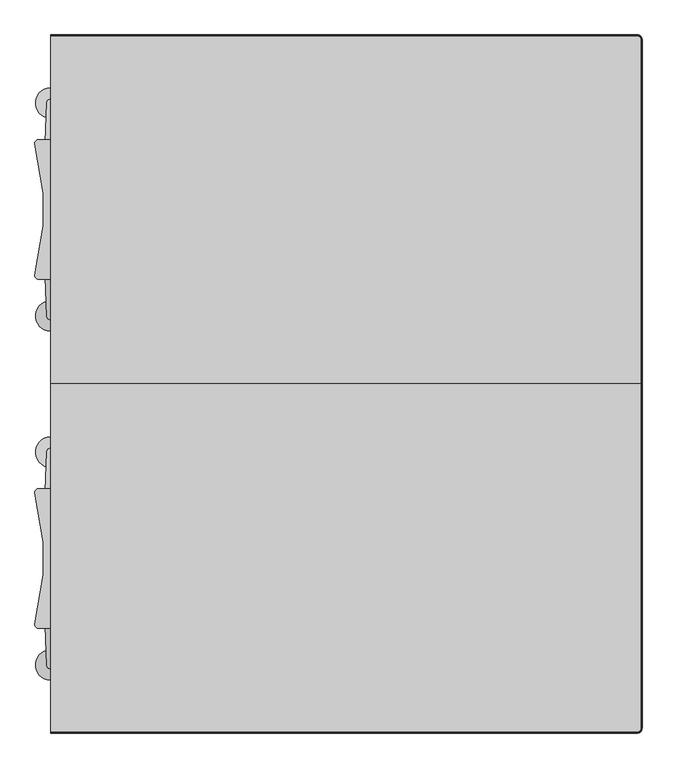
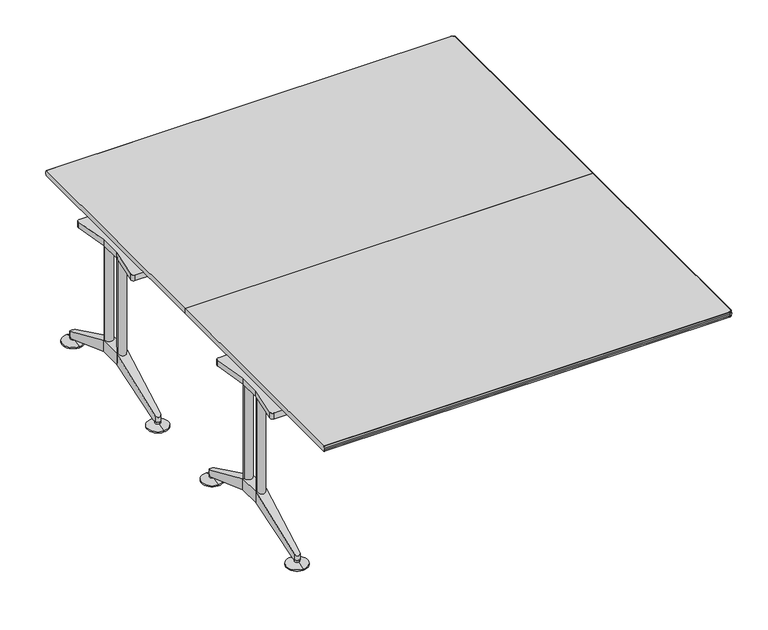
"""IFC4 building model written with IfcOpenShell, lengths in millimetres: furniture geometry, Furniture_Wilkhahn_620-46_Logon Table-Rectangle : Logon 620/46_3900L x 2300W x 730H."""

from ifc_helpers import new_model, si_unit, point, frame, frame_2d, origin, place, context, project, spatial, polyline, circle_curve, ellipse_curve, trimmed, segment, composite_curve, outline, extrude, source, transform, mapped, element, save
from ifc_brep_helpers import plane_surface, cylinder_surface, revolved_surface, advanced_brep


def furniture_7b60b26e(model_context):
    return source(origin(), model_context, "Body", "SolidModel", [
        advanced_brep(
        [(0.0, 250.4267924, 0.0), (0.0, 200.4267924, 0.0), (0.0, 300.4267924, 0.0), (0.0, 200.4267924, 6.0), (0.0, 300.4267924, 6.0), (0.0, 237.9511544, 17.0), (0.0, 262.9024304, 17.0), (0.0, 237.9511544, 27.0), (0.0, 262.9024304, 27.0), (0.0, 250.4267924, 27.0)],
        [
            (0, 1),
            (1, 2, circle_curve(frame((0.0, 250.4267924, 0.0), z_axis=(0.0, 0.0, -1.0), x_axis=(0.0, -1.0000000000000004, 0.0)), 50.0)),
            (2, 0),
            (2, 1, circle_curve(frame((0.0, 250.4267924, 0.0), z_axis=(0.0, 0.0, -1.0), x_axis=(0.0, -1.0000000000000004, 0.0)), 50.0)),
            (1, 3),
            (3, 4, circle_curve(frame((0.0, 250.4267924, 6.0), z_axis=(0.0, 0.0, -1.0), x_axis=(0.0, -1.0000000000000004, 0.0)), 50.0)),
            (4, 2),
            (4, 3, circle_curve(frame((0.0, 250.4267924, 6.0), z_axis=(0.0, 0.0, -1.0), x_axis=(0.0, -1.0000000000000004, 0.0)), 50.0)),
            (3, 5),
            (5, 6, circle_curve(frame((0.0, 250.4267924, 17.0), z_axis=(0.0, 0.0, -1.0), x_axis=(0.0, -1.0000000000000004, 0.0)), 12.475638)),
            (6, 4),
            (6, 5, circle_curve(frame((0.0, 250.4267924, 17.0), z_axis=(0.0, 0.0, -1.0), x_axis=(0.0, -1.0000000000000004, 0.0)), 12.475638)),
            (5, 7),
            (7, 8, circle_curve(frame((0.0, 250.4267924, 27.0), z_axis=(0.0, 0.0, -1.0), x_axis=(0.0, -1.0000000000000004, 0.0)), 12.475638)),
            (8, 6),
            (8, 7, circle_curve(frame((0.0, 250.4267924, 27.0), z_axis=(0.0, 0.0, -1.0), x_axis=(0.0, -1.0000000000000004, 0.0)), 12.475638)),
            (7, 9),
            (9, 8),
        ],
        [
            plane_surface(frame((0.0, 250.4267924, 0.0), z_axis=(0.0, 0.0, -1.0), x_axis=(0.0, -1.0, 0.0))),
            cylinder_surface(frame((0.0, 250.4267924, 27.0), z_axis=(0.0, 0.0, -1.0), x_axis=(0.0, -1.0000000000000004, 0.0)), 50.0),
            revolved_surface(polyline([(0.0, 237.9511544, 17.0), (0.0, 200.4267924, 6.0)]), (0.0, 250.4267924, 27.0), (0.0, 0.0, -1.0)),
            cylinder_surface(frame((0.0, 250.4267924, 27.0), z_axis=(0.0, 0.0, -1.0), x_axis=(0.0, -1.0000000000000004, 0.0)), 12.475638),
            plane_surface(frame((0.0, 250.4267924, 27.0), z_axis=(0.0, 0.0, 1.0), x_axis=(0.0, -1.0, 0.0))),
        ],
        [
            (0, [[1, 2, 3]]),
            (0, [[-3, 4, -1]]),
            (1, [[-2, 5, 6, 7]]),
            (1, [[-4, -7, 8, -5]]),
            (2, [[-6, 9, 10, 11]]),
            (2, [[-8, -11, 12, -9]]),
            (3, [[-10, 13, 14, 15]]),
            (3, [[-12, -15, 16, -13]]),
            (4, [[-14, 17, 18]]),
            (4, [[-16, -18, -17]]),
        ],
    ),
        advanced_brep(
        [(0.0, 901.4755164, 0.0), (0.0, 1001.4755164, 0.0), (0.0, 951.4755164, 0.0), (0.0, 901.4755164, 6.0), (0.0, 1001.4755164, 6.0), (0.0, 938.9998784, 17.0), (0.0, 963.9511544, 17.0), (0.0, 938.9998784, 27.0), (0.0, 963.9511544, 27.0), (0.0, 951.4755164, 27.0)],
        [
            (0, 1, circle_curve(frame((0.0, 951.4755164, 0.0), z_axis=(0.0, 0.0, -1.0), x_axis=(0.0, 1.0000000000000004, 0.0)), 50.0)),
            (1, 2),
            (2, 0),
            (1, 0, circle_curve(frame((0.0, 951.4755164, 0.0), z_axis=(0.0, 0.0, -1.0), x_axis=(0.0, 1.0000000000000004, 0.0)), 50.0)),
            (3, 4, circle_curve(frame((0.0, 951.4755164, 6.0), z_axis=(0.0, 0.0, -1.0), x_axis=(0.0, 1.0000000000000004, 0.0)), 50.0)),
            (4, 1),
            (0, 3),
            (4, 3, circle_curve(frame((0.0, 951.4755164, 6.0), z_axis=(0.0, 0.0, -1.0), x_axis=(0.0, 1.0000000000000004, 0.0)), 50.0)),
            (5, 6, circle_curve(frame((0.0, 951.4755164, 17.0), z_axis=(0.0, 0.0, -1.0), x_axis=(0.0, 1.0000000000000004, 0.0)), 12.475638)),
            (6, 4),
            (3, 5),
            (6, 5, circle_curve(frame((0.0, 951.4755164, 17.0), z_axis=(0.0, 0.0, -1.0), x_axis=(0.0, 1.0000000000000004, 0.0)), 12.475638)),
            (7, 8, circle_curve(frame((0.0, 951.4755164, 27.0), z_axis=(0.0, 0.0, -1.0), x_axis=(0.0, 1.0000000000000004, 0.0)), 12.475638)),
            (8, 6),
            (5, 7),
            (8, 7, circle_curve(frame((0.0, 951.4755164, 27.0), z_axis=(0.0, 0.0, -1.0), x_axis=(0.0, 1.0000000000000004, 0.0)), 12.475638)),
            (9, 8),
            (7, 9),
        ],
        [
            plane_surface(frame((0.0, 951.4755164, 0.0), z_axis=(0.0, 0.0, -1.0), x_axis=(0.0, 1.0, 0.0))),
            cylinder_surface(frame((0.0, 951.4755164, 27.0), z_axis=(0.0, 0.0, 1.0), x_axis=(0.0, 1.0000000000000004, 0.0)), 50.0),
            revolved_surface(polyline([(0.0, 1001.4755164, 6.0), (0.0, 963.9511544, 17.0)]), (0.0, 951.4755164, 27.0), (0.0, 0.0, 1.0)),
            cylinder_surface(frame((0.0, 951.4755164, 27.0), z_axis=(0.0, 0.0, 1.0), x_axis=(0.0, 1.0000000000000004, 0.0)), 12.475638),
            plane_surface(frame((0.0, 951.4755164, 27.0), z_axis=(0.0, 0.0, 1.0), x_axis=(0.0, 1.0, 0.0))),
        ],
        [
            (0, [[1, 2, 3]]),
            (0, [[4, -3, -2]]),
            (1, [[5, 6, -1, 7]]),
            (1, [[8, -7, -4, -6]]),
            (2, [[9, 10, -5, 11]]),
            (2, [[12, -11, -8, -10]]),
            (3, [[13, 14, -9, 15]]),
            (3, [[16, -15, -12, -14]]),
            (4, [[17, -13, 18]]),
            (4, [[-18, -16, -17]]),
        ],
    ),
        extrude(outline(composite_curve([segment(polyline([(25.0, 547.9511544), (51.7160071, 384.8913867)]), True, "CONTINUOUS"), segment(trimmed(circle_curve(frame_2d((39.8739001, 382.9511544)), 12.0), [point((51.7160071, 384.8913867))], [point((39.8739001, 370.9511544))], False, "CARTESIAN"), True, "CONTINUOUS"), segment(polyline([(39.8739001, 370.9511544), (-39.8739001, 370.9511544)]), True, "CONTINUOUS"), segment(trimmed(circle_curve(frame_2d((-39.8739001, 382.9511544)), 12.0), [point((-39.8739001, 370.9511544))], [point((-51.7160071, 384.8913867))], False, "CARTESIAN"), True, "CONTINUOUS"), segment(polyline([(-51.7160071, 384.8913867), (-25.0, 547.9511544), (-25.0, 653.9511544), (-51.7160071, 817.0109222)]), True, "CONTINUOUS"), segment(trimmed(circle_curve(frame_2d((-39.8739001, 818.9511544)), 12.0), [point((-51.7160071, 817.0109222))], [point((-39.8739001, 830.9511544))], False, "CARTESIAN"), True, "CONTINUOUS"), segment(polyline([(-39.8739001, 830.9511544), (39.8739001, 830.9511544)]), True, "CONTINUOUS"), segment(trimmed(circle_curve(frame_2d((39.8739001, 818.9511544)), 12.0), [point((39.8739001, 830.9511544))], [point((51.7160071, 817.0109222))], False, "CARTESIAN"), True, "CONTINUOUS"), segment(polyline([(51.7160071, 817.0109222), (25.0, 653.9511544), (25.0, 547.9511544)]), True, "CONTINUOUS")], self_intersect=False)), frame((0.0, 0.0, 675.0), z_axis=(0.0, 0.0, 1.0), x_axis=(1.0, 0.0, 0.0)), (0.0, 0.0, 1.0), 29.0),
        advanced_brep(
        [(-25.0, 653.9511544, 140.0), (-25.0, 547.9511544, 140.0), (-25.0, 547.9511544, 195.0), (-25.0, 653.9511544, 195.0), (25.0, 653.9511544, 195.0), (25.0, 547.9511544, 195.0), (25.0, 547.9511544, 140.0), (25.0, 653.9511544, 140.0), (13.4930419, 938.9998784, 27.0), (-13.4930419, 938.9998784, 27.0), (-12.9894205, 951.4755164, 27.0), (0.0, 963.9511544, 27.0), (12.9894205, 951.4755164, 27.0), (12.9894205, 951.4755164, 56.4159205), (0.0, 963.9511544, 50.6048844), (-12.9894205, 951.4755164, 56.4159205), (12.9894205, 250.4267924, 56.4159205), (12.9894205, 250.4267924, 27.0), (13.4930419, 262.9024304, 27.0), (-12.9894205, 250.4267924, 27.0), (-12.9894205, 250.4267924, 56.4159205), (-13.4930419, 262.9024304, 27.0), (0.0, 237.9511544, 27.0), (0.0, 237.9511544, 50.6048844)],
        [
            (0, 1),
            (1, 2),
            (2, 3),
            (3, 0),
            (4, 5),
            (5, 6),
            (6, 7),
            (7, 4),
            (8, 9),
            (9, 10),
            (10, 11, circle_curve(frame((0.0, 950.9511544, 27.0), z_axis=(0.0, 0.0, -1.0), x_axis=(1.0000000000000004, 0.0, 0.0)), 13.0)),
            (11, 12, circle_curve(frame((0.0, 950.9511544, 27.0), z_axis=(0.0, 0.0, -1.0), x_axis=(1.0000000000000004, 0.0, 0.0)), 13.0)),
            (12, 8),
            (3, 4),
            (4, 13),
            (13, 14, ellipse_curve(frame((0.0, 950.9511544, 56.6601634), z_axis=(0.0, 0.42223330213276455, 0.9064871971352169), x_axis=(0.0, 0.9064871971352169, -0.42223330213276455)), 14.341074, 13.0)),
            (14, 15, ellipse_curve(frame((0.0, 950.9511544, 56.6601634), z_axis=(0.0, 0.42223330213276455, 0.9064871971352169), x_axis=(0.0, 0.9064871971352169, -0.42223330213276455)), 14.341074, 13.0)),
            (15, 3),
            (7, 0),
            (0, 9),
            (8, 7),
            (16, 17),
            (17, 18),
            (18, 6),
            (5, 16),
            (19, 20),
            (20, 2),
            (1, 21),
            (21, 19),
            (2, 5),
            (6, 1),
            (19, 22, circle_curve(frame((0.0, 250.9511544, 27.0), z_axis=(0.0, 0.0, 1.0), x_axis=(1.0000000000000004, 0.0, 0.0)), 13.0)),
            (22, 17, circle_curve(frame((0.0, 250.9511544, 27.0), z_axis=(0.0, 0.0, 1.0), x_axis=(1.0000000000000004, 0.0, 0.0)), 13.0)),
            (16, 23, ellipse_curve(frame((0.0, 250.9511544, 56.6601634), z_axis=(0.0, 0.42223330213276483, -0.906487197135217), x_axis=(0.0, -0.906487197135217, -0.42223330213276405)), 14.341074, 13.0)),
            (23, 20, ellipse_curve(frame((0.0, 250.9511544, 56.6601634), z_axis=(0.0, 0.42223330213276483, -0.906487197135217), x_axis=(0.0, -0.906487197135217, -0.42223330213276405)), 14.341074, 13.0)),
            (15, 10),
            (13, 12),
            (21, 18),
        ],
        [
            plane_surface(frame((-25.0, 947.2046146, 27.0), z_axis=(-1.0, 0.0, 0.0), x_axis=(0.0, -1.0, 0.0))),
            plane_surface(frame((25.0, 947.2046146, 27.0), z_axis=(1.0, 0.0, 0.0), x_axis=(0.0, 1.0, 0.0))),
            plane_surface(frame((25.0, 938.9998784, 27.0), z_axis=(0.0, 0.0, -1.0), x_axis=(-1.0, 0.0, 0.0))),
            plane_surface(frame((25.0, 963.9511544, 50.6048844), z_axis=(0.0, 0.42223330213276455, 0.9064871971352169), x_axis=(-1.0, 0.0, 0.0))),
            plane_surface(frame((25.0, 653.9511544, 140.0), z_axis=(0.0, -0.36852267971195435, -0.9296187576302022), x_axis=(-1.0, 0.0, 0.0))),
            plane_surface(frame((25.0, 547.9511544, 195.0), z_axis=(0.9991861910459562, -0.04033553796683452, 0.0), x_axis=(0.0, 0.0, -1.0))),
            plane_surface(frame((-12.9894205, 250.4267924, 195.0), z_axis=(-0.9991861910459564, -0.0403355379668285, 0.0), x_axis=(0.0, 0.0, -1.0))),
            plane_surface(frame((25.0, 653.9511544, 195.0), z_axis=(0.0, 0.0, 1.0), x_axis=(-1.0, 0.0, 0.0))),
            plane_surface(frame((25.0, 547.9511544, 140.0), z_axis=(0.0, 0.0, -1.0), x_axis=(-1.0, 0.0, 0.0))),
            cylinder_surface(frame((0.0, 250.9511544, 0.0), z_axis=(0.0, 0.0, -1.0), x_axis=(1.0000000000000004, 0.0, 0.0)), 13.0),
            plane_surface(frame((-25.0, 653.9511544, 195.0), z_axis=(-0.9991861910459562, 0.040335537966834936, 0.0), x_axis=(0.0, 0.0, -1.0))),
            cylinder_surface(frame((0.0, 950.9511544, -14.190167), z_axis=(0.0, 0.0, -1.0), x_axis=(1.0000000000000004, 0.0, 0.0)), 13.0),
            plane_surface(frame((12.9894205, 951.4755164, 195.0), z_axis=(0.9991861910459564, 0.04033553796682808, 0.0), x_axis=(0.0, 0.0, -1.0))),
            plane_surface(frame((25.0, 547.9511544, 195.0), z_axis=(0.0, -0.4222333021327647, 0.9064871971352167), x_axis=(-1.0, 0.0, 0.0))),
            plane_surface(frame((25.0, 237.9511544, 27.0), z_axis=(0.0, 0.0, -1.0), x_axis=(-1.0, 0.0, 0.0))),
            plane_surface(frame((25.0, 262.9024304, 27.0), z_axis=(0.0, 0.36852267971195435, -0.929618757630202), x_axis=(-1.0, 0.0, 0.0))),
        ],
        [
            (0, [[1, 2, 3, 4]]),
            (1, [[5, 6, 7, 8]]),
            (2, [[9, 10, 11, 12, 13]]),
            (3, [[14, 15, 16, 17, 18]]),
            (4, [[19, 20, -9, 21]]),
            (5, [[22, 23, 24, -6, 25]]),
            (6, [[26, 27, -2, 28, 29]]),
            (7, [[-3, 30, -5, -14]]),
            (8, [[-1, -19, -7, 31]]),
            (9, [[-26, 32, 33, -22, 34, 35]]),
            (10, [[36, -10, -20, -4, -18]]),
            (11, [[-36, -17, -16, 37, -12, -11]]),
            (12, [[-37, -15, -8, -21, -13]]),
            (13, [[-30, -27, -35, -34, -25]]),
            (14, [[38, -23, -33, -32, -29]]),
            (15, [[-31, -24, -38, -28]]),
        ],
    ),
        extrude(outline(composite_curve([segment(trimmed(circle_curve(frame_2d((0.0, 547.9511544)), 20.0), [point((-20.0, 547.9511544))], [point((20.0, 547.9511544))], False, "CARTESIAN"), True, "CONTINUOUS"), segment(trimmed(circle_curve(frame_2d((0.0, 547.9511544)), 20.0), [point((20.0, 547.9511544))], [point((-20.0, 547.9511544))], False, "CARTESIAN"), True, "CONTINUOUS")], self_intersect=False)), frame((0.0, 0.0, 140.0), z_axis=(0.0, 0.0, 1.0), x_axis=(1.0, 0.0, 0.0)), (0.0, 0.0, 1.0), 535.0),
        extrude(outline(composite_curve([segment(trimmed(circle_curve(frame_2d((0.0, 653.9511544)), 20.0), [point((-20.0, 653.9511544))], [point((20.0, 653.9511544))], False, "CARTESIAN"), True, "CONTINUOUS"), segment(trimmed(circle_curve(frame_2d((0.0, 653.9511544)), 20.0), [point((20.0, 653.9511544))], [point((-20.0, 653.9511544))], False, "CARTESIAN"), True, "CONTINUOUS")], self_intersect=False)), frame((0.0, 0.0, 140.0), z_axis=(0.0, 0.0, 1.0), x_axis=(1.0, 0.0, 0.0)), (0.0, 0.0, 1.0), 535.0),
        advanced_brep(
        [(0.0, -198.5244836, 0.0), (0.0, -248.5244836, 0.0), (0.0, -148.5244836, 0.0), (0.0, -248.5244836, 6.0), (0.0, -148.5244836, 6.0), (0.0, -211.0001216, 17.0), (0.0, -186.0488456, 17.0), (0.0, -211.0001216, 27.0), (0.0, -186.0488456, 27.0), (0.0, -198.5244836, 27.0)],
        [
            (0, 1),
            (1, 2, circle_curve(frame((0.0, -198.5244836, 0.0), z_axis=(0.0, 0.0, -1.0), x_axis=(0.0, 1.0000000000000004, 0.0)), 50.0)),
            (2, 0),
            (2, 1, circle_curve(frame((0.0, -198.5244836, 0.0), z_axis=(0.0, 0.0, -1.0), x_axis=(0.0, 1.0000000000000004, 0.0)), 50.0)),
            (1, 3),
            (3, 4, circle_curve(frame((0.0, -198.5244836, 6.0), z_axis=(0.0, 0.0, -1.0), x_axis=(0.0, 1.0000000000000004, 0.0)), 50.0)),
            (4, 2),
            (4, 3, circle_curve(frame((0.0, -198.5244836, 6.0), z_axis=(0.0, 0.0, -1.0), x_axis=(0.0, 1.0000000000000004, 0.0)), 50.0)),
            (3, 5),
            (5, 6, circle_curve(frame((0.0, -198.5244836, 17.0), z_axis=(0.0, 0.0, -1.0), x_axis=(0.0, 1.0000000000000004, 0.0)), 12.475638)),
            (6, 4),
            (6, 5, circle_curve(frame((0.0, -198.5244836, 17.0), z_axis=(0.0, 0.0, -1.0), x_axis=(0.0, 1.0000000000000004, 0.0)), 12.475638)),
            (5, 7),
            (7, 8, circle_curve(frame((0.0, -198.5244836, 27.0), z_axis=(0.0, 0.0, -1.0), x_axis=(0.0, 1.0000000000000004, 0.0)), 12.475638)),
            (8, 6),
            (8, 7, circle_curve(frame((0.0, -198.5244836, 27.0), z_axis=(0.0, 0.0, -1.0), x_axis=(0.0, 1.0000000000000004, 0.0)), 12.475638)),
            (7, 9),
            (9, 8),
        ],
        [
            plane_surface(frame((0.0, -198.5244836, 0.0), z_axis=(0.0, 0.0, -1.0), x_axis=(0.0, 1.0, 0.0))),
            cylinder_surface(frame((0.0, -198.5244836, 27.0), z_axis=(0.0, 0.0, -1.0), x_axis=(0.0, 1.0000000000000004, 0.0)), 50.0),
            revolved_surface(polyline([(0.0, -186.0488456, 17.0), (0.0, -148.5244836, 6.0)]), (0.0, -198.5244836, 27.0), (0.0, 0.0, -1.0)),
            cylinder_surface(frame((0.0, -198.5244836, 27.0), z_axis=(0.0, 0.0, -1.0), x_axis=(0.0, 1.0000000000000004, 0.0)), 12.475638),
            plane_surface(frame((0.0, -198.5244836, 27.0), z_axis=(0.0, 0.0, 1.0), x_axis=(0.0, 1.0, 0.0))),
        ],
        [
            (0, [[1, 2, 3]]),
            (0, [[-3, 4, -1]]),
            (1, [[5, 6, 7, -2]]),
            (1, [[-7, 8, -5, -4]]),
            (2, [[9, 10, 11, -6]]),
            (2, [[-11, 12, -9, -8]]),
            (3, [[13, 14, 15, -10]]),
            (3, [[-15, 16, -13, -12]]),
            (4, [[17, 18, -14]]),
            (4, [[-18, -17, -16]]),
        ],
    ),
        advanced_brep(
        [(0.0, -849.5732076, 0.0), (0.0, -899.5732076, 0.0), (0.0, -949.5732076, 0.0), (0.0, -849.5732076, 6.0), (0.0, -949.5732076, 6.0), (0.0, -887.0975696, 17.0), (0.0, -912.0488456, 17.0), (0.0, -887.0975696, 27.0), (0.0, -912.0488456, 27.0), (0.0, -899.5732076, 27.0)],
        [
            (0, 1),
            (1, 2),
            (2, 0, circle_curve(frame((0.0, -899.5732076, 0.0), z_axis=(0.0, 0.0, -1.0), x_axis=(0.0, -1.0000000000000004, 0.0)), 50.0)),
            (0, 2, circle_curve(frame((0.0, -899.5732076, 0.0), z_axis=(0.0, 0.0, -1.0), x_axis=(0.0, -1.0000000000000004, 0.0)), 50.0)),
            (3, 0),
            (2, 4),
            (4, 3, circle_curve(frame((0.0, -899.5732076, 6.0), z_axis=(0.0, 0.0, -1.0), x_axis=(0.0, -1.0000000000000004, 0.0)), 50.0)),
            (3, 4, circle_curve(frame((0.0, -899.5732076, 6.0), z_axis=(0.0, 0.0, -1.0), x_axis=(0.0, -1.0000000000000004, 0.0)), 50.0)),
            (5, 3),
            (4, 6),
            (6, 5, circle_curve(frame((0.0, -899.5732076, 17.0), z_axis=(0.0, 0.0, -1.0), x_axis=(0.0, -1.0000000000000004, 0.0)), 12.475638)),
            (5, 6, circle_curve(frame((0.0, -899.5732076, 17.0), z_axis=(0.0, 0.0, -1.0), x_axis=(0.0, -1.0000000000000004, 0.0)), 12.475638)),
            (7, 5),
            (6, 8),
            (8, 7, circle_curve(frame((0.0, -899.5732076, 27.0), z_axis=(0.0, 0.0, -1.0), x_axis=(0.0, -1.0000000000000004, 0.0)), 12.475638)),
            (7, 8, circle_curve(frame((0.0, -899.5732076, 27.0), z_axis=(0.0, 0.0, -1.0), x_axis=(0.0, -1.0000000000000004, 0.0)), 12.475638)),
            (9, 7),
            (8, 9),
        ],
        [
            plane_surface(frame((0.0, -899.5732076, 0.0), z_axis=(0.0, 0.0, -1.0), x_axis=(0.0, -1.0, 0.0))),
            cylinder_surface(frame((0.0, -899.5732076, 27.0), z_axis=(0.0, 0.0, 1.0), x_axis=(0.0, -1.0000000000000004, 0.0)), 50.0),
            revolved_surface(polyline([(0.0, -949.5732076, 6.0), (0.0, -912.0488456, 17.0)]), (0.0, -899.5732076, 27.0), (0.0, 0.0, 1.0)),
            cylinder_surface(frame((0.0, -899.5732076, 27.0), z_axis=(0.0, 0.0, 1.0), x_axis=(0.0, -1.0000000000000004, 0.0)), 12.475638),
            plane_surface(frame((0.0, -899.5732076, 27.0), z_axis=(0.0, 0.0, 1.0), x_axis=(0.0, -1.0, 0.0))),
        ],
        [
            (0, [[1, 2, 3]]),
            (0, [[-2, -1, 4]]),
            (1, [[5, -3, 6, 7]]),
            (1, [[-6, -4, -5, 8]]),
            (2, [[9, -7, 10, 11]]),
            (2, [[-10, -8, -9, 12]]),
            (3, [[13, -11, 14, 15]]),
            (3, [[-14, -12, -13, 16]]),
            (4, [[17, -15, 18]]),
            (4, [[-18, -16, -17]]),
        ],
    ),
        extrude(outline(composite_curve([segment(polyline([(25.0, -496.0488456), (25.0, -602.0488456), (51.7160071, -765.1086133)]), True, "CONTINUOUS"), segment(trimmed(circle_curve(frame_2d((39.8739001, -767.0488456)), 12.0), [point((51.7160071, -765.1086133))], [point((39.8739001, -779.0488456))], False, "CARTESIAN"), True, "CONTINUOUS"), segment(polyline([(39.8739001, -779.0488456), (-39.8739001, -779.0488456)]), True, "CONTINUOUS"), segment(trimmed(circle_curve(frame_2d((-39.8739001, -767.0488456)), 12.0), [point((-39.8739001, -779.0488456))], [point((-51.7160071, -765.1086133))], False, "CARTESIAN"), True, "CONTINUOUS"), segment(polyline([(-51.7160071, -765.1086133), (-25.0, -602.0488456), (-25.0, -496.0488456), (-51.7160071, -332.9890778)]), True, "CONTINUOUS"), segment(trimmed(circle_curve(frame_2d((-39.8739001, -331.0488456)), 12.0), [point((-51.7160071, -332.9890778))], [point((-39.8739001, -319.0488456))], False, "CARTESIAN"), True, "CONTINUOUS"), segment(polyline([(-39.8739001, -319.0488456), (39.8739001, -319.0488456)]), True, "CONTINUOUS"), segment(trimmed(circle_curve(frame_2d((39.8739001, -331.0488456)), 12.0), [point((39.8739001, -319.0488456))], [point((51.7160071, -332.9890778))], False, "CARTESIAN"), True, "CONTINUOUS"), segment(polyline([(51.7160071, -332.9890778), (25.0, -496.0488456)]), True, "CONTINUOUS")], self_intersect=False)), frame((0.0, 0.0, 675.0), z_axis=(0.0, 0.0, 1.0), x_axis=(1.0, 0.0, 0.0)), (0.0, 0.0, 1.0), 29.0),
        advanced_brep(
        [(-25.0, -602.0488456, 140.0), (-25.0, -602.0488456, 195.0), (-25.0, -496.0488456, 195.0), (-25.0, -496.0488456, 140.0), (25.0, -602.0488456, 195.0), (25.0, -602.0488456, 140.0), (25.0, -496.0488456, 140.0), (25.0, -496.0488456, 195.0), (13.4930419, -887.0975696, 27.0), (12.9894205, -899.5732076, 27.0), (0.0, -912.0488456, 27.0), (-12.9894205, -899.5732076, 27.0), (-13.4930419, -887.0975696, 27.0), (-12.9894205, -899.5732076, 56.4159205), (0.0, -912.0488456, 50.6048844), (12.9894205, -899.5732076, 56.4159205), (12.9894205, -198.5244836, 56.4159205), (13.4930419, -211.0001216, 27.0), (12.9894205, -198.5244836, 27.0), (-12.9894205, -198.5244836, 27.0), (-13.4930419, -211.0001216, 27.0), (-12.9894205, -198.5244836, 56.4159205), (0.0, -186.0488456, 50.6048844), (0.0, -186.0488456, 27.0)],
        [
            (0, 1),
            (1, 2),
            (2, 3),
            (3, 0),
            (4, 5),
            (5, 6),
            (6, 7),
            (7, 4),
            (8, 9),
            (9, 10, circle_curve(frame((0.0, -899.0488456, 27.0), z_axis=(0.0, 0.0, -1.0), x_axis=(1.0000000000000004, 0.0, 0.0)), 13.0)),
            (10, 11, circle_curve(frame((0.0, -899.0488456, 27.0), z_axis=(0.0, 0.0, -1.0), x_axis=(1.0000000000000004, 0.0, 0.0)), 13.0)),
            (11, 12),
            (12, 8),
            (1, 13),
            (13, 14, ellipse_curve(frame((0.0, -899.0488456, 56.6601634), z_axis=(0.0, -0.42223330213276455, 0.9064871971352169), x_axis=(0.0, -0.9064871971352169, -0.42223330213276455)), 14.341074, 13.0)),
            (14, 15, ellipse_curve(frame((0.0, -899.0488456, 56.6601634), z_axis=(0.0, -0.42223330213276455, 0.9064871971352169), x_axis=(0.0, -0.9064871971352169, -0.42223330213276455)), 14.341074, 13.0)),
            (15, 4),
            (4, 1),
            (5, 8),
            (12, 0),
            (0, 5),
            (16, 7),
            (6, 17),
            (17, 18),
            (18, 16),
            (19, 20),
            (20, 3),
            (2, 21),
            (21, 19),
            (7, 2),
            (3, 6),
            (21, 22, ellipse_curve(frame((0.0, -199.0488456, 56.6601634), z_axis=(0.0, -0.42223330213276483, -0.906487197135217), x_axis=(0.0, 0.906487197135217, -0.42223330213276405)), 14.341074, 13.0)),
            (22, 16, ellipse_curve(frame((0.0, -199.0488456, 56.6601634), z_axis=(0.0, -0.42223330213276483, -0.906487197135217), x_axis=(0.0, 0.906487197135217, -0.42223330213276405)), 14.341074, 13.0)),
            (18, 23, circle_curve(frame((0.0, -199.0488456, 27.0), z_axis=(0.0, 0.0, 1.0), x_axis=(1.0000000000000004, 0.0, 0.0)), 13.0)),
            (23, 19, circle_curve(frame((0.0, -199.0488456, 27.0), z_axis=(0.0, 0.0, 1.0), x_axis=(1.0000000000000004, 0.0, 0.0)), 13.0)),
            (11, 13),
            (9, 15),
            (17, 20),
        ],
        [
            plane_surface(frame((-25.0, -895.3023057, 27.0), z_axis=(-1.0, 0.0, 0.0), x_axis=(0.0, 1.0, 0.0))),
            plane_surface(frame((25.0, -895.3023057, 27.0), z_axis=(1.0, 0.0, 0.0), x_axis=(0.0, -1.0, 0.0))),
            plane_surface(frame((25.0, -887.0975696, 27.0), z_axis=(0.0, 0.0, -1.0), x_axis=(-1.0, 0.0, 0.0))),
            plane_surface(frame((25.0, -912.0488456, 50.6048844), z_axis=(0.0, -0.42223330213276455, 0.9064871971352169), x_axis=(-1.0, 0.0, 0.0))),
            plane_surface(frame((25.0, -602.0488456, 140.0), z_axis=(0.0, 0.36852267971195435, -0.9296187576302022), x_axis=(-1.0, 0.0, 0.0))),
            plane_surface(frame((25.0, -496.0488456, 195.0), z_axis=(0.9991861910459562, 0.04033553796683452, 0.0), x_axis=(0.0, 0.0, -1.0))),
            plane_surface(frame((-12.9894205, -198.5244836, 195.0), z_axis=(-0.9991861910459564, 0.0403355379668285, 0.0), x_axis=(0.0, 0.0, -1.0))),
            plane_surface(frame((25.0, -602.0488456, 195.0), z_axis=(0.0, 0.0, 1.0), x_axis=(-1.0, 0.0, 0.0))),
            plane_surface(frame((25.0, -496.0488456, 140.0), z_axis=(0.0, 0.0, -1.0), x_axis=(-1.0, 0.0, 0.0))),
            cylinder_surface(frame((0.0, -199.0488456, 0.0), z_axis=(0.0, 0.0, -1.0), x_axis=(1.0000000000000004, 0.0, 0.0)), 13.0),
            plane_surface(frame((-25.0, -602.0488456, 195.0), z_axis=(-0.9991861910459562, -0.040335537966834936, 0.0), x_axis=(0.0, 0.0, -1.0))),
            cylinder_surface(frame((0.0, -899.0488456, -14.190167), z_axis=(0.0, 0.0, -1.0), x_axis=(1.0000000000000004, 0.0, 0.0)), 13.0),
            plane_surface(frame((12.9894205, -899.5732076, 195.0), z_axis=(0.9991861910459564, -0.04033553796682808, 0.0), x_axis=(0.0, 0.0, -1.0))),
            plane_surface(frame((25.0, -496.0488456, 195.0), z_axis=(0.0, 0.4222333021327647, 0.9064871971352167), x_axis=(-1.0, 0.0, 0.0))),
            plane_surface(frame((25.0, -186.0488456, 27.0), z_axis=(0.0, 0.0, -1.0), x_axis=(-1.0, 0.0, 0.0))),
            plane_surface(frame((25.0, -211.0001216, 27.0), z_axis=(0.0, -0.36852267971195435, -0.929618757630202), x_axis=(-1.0, 0.0, 0.0))),
        ],
        [
            (0, [[1, 2, 3, 4]]),
            (1, [[5, 6, 7, 8]]),
            (2, [[9, 10, 11, 12, 13]]),
            (3, [[14, 15, 16, 17, 18]]),
            (4, [[19, -13, 20, 21]]),
            (5, [[22, -7, 23, 24, 25]]),
            (6, [[26, 27, -3, 28, 29]]),
            (7, [[-18, -8, 30, -2]]),
            (8, [[31, -6, -21, -4]]),
            (9, [[32, 33, -25, 34, 35, -29]]),
            (10, [[-14, -1, -20, -12, 36]]),
            (11, [[-11, -10, 37, -16, -15, -36]]),
            (12, [[-9, -19, -5, -17, -37]]),
            (13, [[-22, -33, -32, -28, -30]]),
            (14, [[-26, -35, -34, -24, 38]]),
            (15, [[-27, -38, -23, -31]]),
        ],
    ),
        extrude(outline(composite_curve([segment(trimmed(circle_curve(frame_2d((0.0, -496.0488456)), 20.0), [point((-20.0, -496.0488456))], [point((20.0, -496.0488456))], False, "CARTESIAN"), True, "CONTINUOUS"), segment(trimmed(circle_curve(frame_2d((0.0, -496.0488456)), 20.0), [point((20.0, -496.0488456))], [point((-20.0, -496.0488456))], False, "CARTESIAN"), True, "CONTINUOUS")], self_intersect=False)), frame((0.0, 0.0, 140.0), z_axis=(0.0, 0.0, 1.0), x_axis=(1.0, 0.0, 0.0)), (0.0, 0.0, 1.0), 535.0),
        extrude(outline(composite_curve([segment(trimmed(circle_curve(frame_2d((0.0, -602.0488456)), 20.0), [point((-20.0, -602.0488456))], [point((20.0, -602.0488456))], False, "CARTESIAN"), True, "CONTINUOUS"), segment(trimmed(circle_curve(frame_2d((0.0, -602.0488456)), 20.0), [point((20.0, -602.0488456))], [point((-20.0, -602.0488456))], False, "CARTESIAN"), True, "CONTINUOUS")], self_intersect=False)), frame((0.0, 0.0, 140.0), z_axis=(0.0, 0.0, 1.0), x_axis=(1.0, 0.0, 0.0)), (0.0, 0.0, 1.0), 535.0),
        advanced_brep(
        [(0.0, -1120.2688717, 703.9999792), (0.0, -1121.7520946, 705.2762608), (0.0, -1122.5502006, 713.4306041), (0.0, -1122.5502006, 720.5693751), (0.0, -1121.7520946, 728.7237185), (0.0, -1120.2688717, 730.0), (0.0, 25.9511544, 730.0), (0.0, 25.9511544, 703.9999792), (1946.2200262, 25.9511544, 730.0), (1947.703249, 25.9511544, 728.7237185), (1948.5013551, 25.9511544, 720.5693751), (1948.5013551, 25.9511544, 713.4306041), (1947.703249, 25.9511544, 705.2762608), (1946.2200262, 25.9511544, 703.9999792), (1946.2200262, -1109.0488456, 703.9999792), (1935.0, -1120.2688717, 703.9999792), (1935.0, -1122.5502006, 713.4306041), (1935.0, -1122.5502006, 720.5693751), (1935.0, -1120.2688717, 730.0), (1946.2200262, -1109.0488456, 730.0), (1948.501355, -1109.0488456, 713.4306041), (1948.501355, -1109.0488456, 720.5693751), (1935.0, -1121.7520946, 705.2762608), (1935.0, -1121.7520946, 728.7237185), (1947.703249, -1109.0488456, 705.2762608), (1947.703249, -1109.0488456, 728.7237185)],
        [
            (0, 1, circle_curve(frame((0.0, -1120.2688717, 705.4999792), z_axis=(-1.0, 0.0, 0.0), x_axis=(0.0, 1.0, 0.0)), 1.5)),
            (1, 2, circle_curve(frame((0.0, -1044.025371, 716.9999896), z_axis=(-1.0, 0.0, 0.0), x_axis=(0.0, 1.0, 0.0)), 78.6059119)),
            (2, 3, circle_curve(frame((0.0, -1119.0488456, 716.9999896), z_axis=(-1.0, 0.0, 0.0), x_axis=(0.0, 1.0, 0.0)), 5.0)),
            (3, 4, circle_curve(frame((0.0, -1044.025371, 716.9999896), z_axis=(-1.0, 0.0, 0.0), x_axis=(0.0, 1.0, 0.0)), 78.6059119)),
            (4, 5, circle_curve(frame((0.0, -1120.2688717, 728.5), z_axis=(-1.0, 0.0, 0.0), x_axis=(0.0, 1.0, 0.0)), 1.5)),
            (5, 6),
            (6, 7),
            (7, 0),
            (8, 9, circle_curve(frame((1946.2200262, 25.9511544, 728.5), z_axis=(0.0, 1.0, 0.0), x_axis=(-1.0, 0.0, 0.0)), 1.5)),
            (9, 10, circle_curve(frame((1869.9765254, 25.9511544, 716.9999896), z_axis=(0.0, 1.0, 0.0), x_axis=(-1.0, 0.0, 0.0)), 78.6059119)),
            (10, 11, circle_curve(frame((1945.0, 25.9511544, 716.9999896), z_axis=(0.0, 1.0, 0.0), x_axis=(-1.0, 0.0, 0.0)), 5.0)),
            (11, 12, circle_curve(frame((1869.9765254, 25.9511544, 716.9999896), z_axis=(0.0, 1.0, 0.0), x_axis=(-1.0, 0.0, 0.0)), 78.6059119)),
            (12, 13, circle_curve(frame((1946.2200262, 25.9511544, 705.4999792), z_axis=(0.0, 1.0, 0.0), x_axis=(-1.0, 0.0, 0.0)), 1.5)),
            (13, 7),
            (6, 8),
            (13, 14),
            (14, 15, circle_curve(frame((1935.0, -1109.0488456, 703.9999792), z_axis=(0.0, 0.0, -1.0), x_axis=(0.0, -1.0, 0.0)), 11.2200262)),
            (15, 0),
            (2, 16),
            (16, 17, circle_curve(frame((1935.0, -1119.0488456, 716.9999896), z_axis=(-1.0, 0.0, 0.0), x_axis=(0.0, 1.0, 0.0)), 5.0)),
            (17, 3),
            (5, 18),
            (18, 19, circle_curve(frame((1935.0, -1109.0488456, 730.0), z_axis=(0.0, 0.0, 1.0), x_axis=(0.0, -1.0, 0.0)), 11.2200262)),
            (19, 8),
            (16, 20, circle_curve(frame((1935.0, -1109.0488456, 713.4306041), z_axis=(0.0, 0.0, 1.0), x_axis=(0.0, -1.0, 0.0)), 13.5013551)),
            (20, 21, circle_curve(frame((1945.0, -1109.0488456, 716.9999896), z_axis=(0.0, -1.0, 0.0), x_axis=(-1.0, 0.0, 0.0)), 5.0)),
            (21, 17, circle_curve(frame((1935.0, -1109.0488456, 720.5693751), z_axis=(0.0, 0.0, -1.0), x_axis=(0.0, -1.0, 0.0)), 13.5013551)),
            (10, 21),
            (20, 11),
            (15, 22, circle_curve(frame((1935.0, -1120.2688717, 705.4999792), z_axis=(-1.0, 0.0, 0.0), x_axis=(0.0, 1.0, 0.0)), 1.5)),
            (22, 1),
            (22, 16, circle_curve(frame((1935.0, -1044.025371, 716.9999896), z_axis=(-1.0, 0.0, 0.0), x_axis=(0.0, 1.0, 0.0)), 78.6059119)),
            (17, 23, circle_curve(frame((1935.0, -1044.025371, 716.9999896), z_axis=(-1.0, 0.0, 0.0), x_axis=(0.0, 1.0, 0.0)), 78.6059119)),
            (23, 4),
            (23, 18, circle_curve(frame((1935.0, -1120.2688717, 728.5), z_axis=(-1.0, 0.0, 0.0), x_axis=(0.0, 1.0, 0.0)), 1.5)),
            (14, 24, circle_curve(frame((1946.2200262, -1109.0488456, 705.4999792), z_axis=(0.0, -1.0, 0.0), x_axis=(-1.0, 0.0, 0.0)), 1.5)),
            (24, 22, circle_curve(frame((1935.0, -1109.0488456, 705.2762608), z_axis=(0.0, 0.0, -1.0), x_axis=(0.0, -1.0, 0.0)), 12.703249)),
            (24, 20, circle_curve(frame((1869.9765254, -1109.0488456, 716.9999896), z_axis=(0.0, -1.0, 0.0), x_axis=(-1.0, 0.0, 0.0)), 78.6059119)),
            (21, 25, circle_curve(frame((1869.9765254, -1109.0488456, 716.9999896), z_axis=(0.0, -1.0, 0.0), x_axis=(-1.0, 0.0, 0.0)), 78.6059119)),
            (25, 23, circle_curve(frame((1935.0, -1109.0488456, 728.7237185), z_axis=(0.0, 0.0, -1.0), x_axis=(0.0, -1.0, 0.0)), 12.703249)),
            (25, 19, circle_curve(frame((1946.2200262, -1109.0488456, 728.5), z_axis=(0.0, -1.0, 0.0), x_axis=(-1.0, 0.0, 0.0)), 1.5)),
            (12, 24),
            (9, 25),
        ],
        [
            plane_surface(frame((0.0, -1124.0488456, 730.0), z_axis=(-1.0, 0.0, 0.0), x_axis=(0.0, 0.0, 1.0))),
            plane_surface(frame((1950.0, 25.9511544, 730.0), z_axis=(0.0, 1.0, 0.0), x_axis=(0.0, 0.0, 1.0))),
            plane_surface(frame((0.0, -1119.0488456, 703.9999792), z_axis=(0.0, 0.0, -1.0), x_axis=(1.0, 0.0, 0.0))),
            cylinder_surface(frame((0.0, -1119.0488456, 716.9999896), z_axis=(-1.0, 0.0, 0.0), x_axis=(0.0, 1.0, 0.0)), 5.0),
            plane_surface(frame((0.0, -1120.2688717, 730.0), z_axis=(0.0, 0.0, 1.0), x_axis=(1.0, 0.0, 0.0))),
            revolved_surface(trimmed(ellipse_curve(frame((1935.0, -1119.0488456, 716.9999896), z_axis=(-1.0, 0.0, 0.0), x_axis=(0.0, 1.0, 0.0)), 5.0, 5.0), [point((1935.0, -1122.5502006, 713.4306041))], [point((1935.0, -1122.5502006, 720.5693751))], True, "CARTESIAN"), (1935.0, -1109.0488456, 730.0), (0.0, 0.0, 1.0)),
            cylinder_surface(frame((1945.0, -1109.0488456, 716.9999896), z_axis=(0.0, -1.0, 0.0), x_axis=(-1.0, 0.0, 0.0)), 5.0),
            cylinder_surface(frame((0.0, -1120.2688717, 705.4999792), z_axis=(-1.0, 0.0, 0.0), x_axis=(0.0, 1.0, 0.0)), 1.5),
            cylinder_surface(frame((0.0, -1044.025371, 716.9999896), z_axis=(-1.0, 0.0, 0.0), x_axis=(0.0, 1.0, 0.0)), 78.6059119),
            cylinder_surface(frame((0.0, -1120.2688717, 728.5), z_axis=(-1.0, 0.0, 0.0), x_axis=(0.0, 1.0, 0.0)), 1.5),
            revolved_surface(trimmed(ellipse_curve(frame((1935.0, -1120.2688717, 705.4999792), z_axis=(-1.0, 0.0, 0.0), x_axis=(0.0, 1.0, 0.0)), 1.5, 1.5), [point((1935.0, -1120.2688717, 703.9999792))], [point((1935.0, -1121.7520946, 705.2762608))], True, "CARTESIAN"), (1935.0, -1109.0488456, 730.0), (0.0, 0.0, 1.0)),
            revolved_surface(trimmed(ellipse_curve(frame((1935.0, -1044.025371, 716.9999896), z_axis=(-1.0, 0.0, 0.0), x_axis=(0.0, 1.0, 0.0)), 78.6059119, 78.6059119), [point((1935.0, -1121.7520946, 705.2762608))], [point((1935.0, -1122.5502006, 713.4306041))], True, "CARTESIAN"), (1935.0, -1109.0488456, 730.0), (0.0, 0.0, 1.0)),
            revolved_surface(trimmed(ellipse_curve(frame((1935.0, -1044.025371, 716.9999896), z_axis=(-1.0, 0.0, 0.0), x_axis=(0.0, 1.0, 0.0)), 78.6059119, 78.6059119), [point((1935.0, -1122.5502006, 720.5693751))], [point((1935.0, -1121.7520946, 728.7237185))], True, "CARTESIAN"), (1935.0, -1109.0488456, 730.0), (0.0, 0.0, 1.0)),
            revolved_surface(trimmed(ellipse_curve(frame((1935.0, -1120.2688717, 728.5), z_axis=(-1.0, 0.0, 0.0), x_axis=(0.0, 1.0, 0.0)), 1.5, 1.5), [point((1935.0, -1121.7520946, 728.7237185))], [point((1935.0, -1120.2688717, 730.0))], True, "CARTESIAN"), (1935.0, -1109.0488456, 730.0), (0.0, 0.0, 1.0)),
            cylinder_surface(frame((1946.2200262, -1109.0488456, 705.4999792), z_axis=(0.0, -1.0, 0.0), x_axis=(-1.0, 0.0, 0.0)), 1.5),
            cylinder_surface(frame((1869.9765254, -1109.0488456, 716.9999896), z_axis=(0.0, -1.0, 0.0), x_axis=(-1.0, 0.0, 0.0)), 78.6059119),
            cylinder_surface(frame((1946.2200262, -1109.0488456, 728.5), z_axis=(0.0, -1.0, 0.0), x_axis=(-1.0, 0.0, 0.0)), 1.5),
        ],
        [
            (0, [[1, 2, 3, 4, 5, 6, 7, 8]]),
            (1, [[9, 10, 11, 12, 13, 14, -7, 15]]),
            (2, [[-8, -14, 16, 17, 18]]),
            (3, [[-3, 19, 20, 21]]),
            (4, [[-15, -6, 22, 23, 24]]),
            (5, [[-20, 25, 26, 27]]),
            (6, [[-11, 28, -26, 29]]),
            (7, [[-1, -18, 30, 31]]),
            (8, [[-2, -31, 32, -19]]),
            (8, [[-4, -21, 33, 34]]),
            (9, [[-5, -34, 35, -22]]),
            (10, [[-17, 36, 37, -30]]),
            (11, [[-25, -32, -37, 38]]),
            (12, [[-27, 39, 40, -33]]),
            (13, [[-23, -35, -40, 41]]),
            (14, [[-13, 42, -36, -16]]),
            (15, [[-12, -29, -38, -42]]),
            (15, [[-10, 43, -39, -28]]),
            (16, [[-9, -24, -41, -43]]),
        ],
    ),
        advanced_brep(
        [(1946.2200262, 25.9511544, 730.0), (1946.2200262, 1160.9511544, 730.0), (1935.0, 1172.1711806, 730.0), (0.0, 1172.1711806, 730.0), (0.0, 25.9511544, 730.0), (0.0, 1172.1711806, 703.9999792), (1935.0, 1172.1711806, 703.9999792), (1946.2200262, 1160.9511544, 703.9999792), (1946.2200262, 25.9511544, 703.9999792), (0.0, 25.9511544, 703.9999792), (1947.703249, 25.9511544, 705.2762608), (1948.5013551, 25.9511544, 713.4306041), (1948.5013551, 25.9511544, 720.5693751), (1947.703249, 25.9511544, 728.7237185), (0.0, 1173.6544035, 728.7237185), (0.0, 1174.4525095, 720.5693751), (0.0, 1174.4525095, 713.4306041), (0.0, 1173.6544035, 705.2762608), (1935.0, 1174.4525095, 720.5693751), (1935.0, 1174.4525095, 713.4306041), (1948.5013551, 1160.9511544, 720.5693751), (1948.5013551, 1160.9511544, 713.4306041), (1935.0, 1173.6544035, 705.2762608), (1935.0, 1173.6544035, 728.7237185), (1947.703249, 1160.9511544, 705.2762608), (1947.703249, 1160.9511544, 728.7237185)],
        [
            (0, 1),
            (1, 2, circle_curve(frame((1935.0, 1160.9511544, 730.0), z_axis=(0.0, 0.0, 1.0), x_axis=(0.0, 1.0, 0.0)), 11.2200262)),
            (2, 3),
            (3, 4),
            (4, 0),
            (5, 6),
            (6, 7, circle_curve(frame((1935.0, 1160.9511544, 703.9999792), z_axis=(0.0, 0.0, -1.0), x_axis=(0.0, 1.0, 0.0)), 11.2200262)),
            (7, 8),
            (8, 9),
            (9, 5),
            (4, 9),
            (8, 10, circle_curve(frame((1946.2200262, 25.9511544, 705.4999792), z_axis=(0.0, -1.0, 0.0), x_axis=(1.0, 0.0, 0.0)), 1.5)),
            (10, 11, circle_curve(frame((1869.9765254, 25.9511544, 716.9999896), z_axis=(0.0, -1.0, 0.0), x_axis=(1.0, 0.0, 0.0)), 78.6059119)),
            (11, 12, circle_curve(frame((1945.0, 25.9511544, 716.9999896), z_axis=(0.0, -1.0, 0.0), x_axis=(1.0, 0.0, 0.0)), 5.0)),
            (12, 13, circle_curve(frame((1869.9765254, 25.9511544, 716.9999896), z_axis=(0.0, -1.0, 0.0), x_axis=(1.0, 0.0, 0.0)), 78.6059119)),
            (13, 0, circle_curve(frame((1946.2200262, 25.9511544, 728.5), z_axis=(0.0, -1.0, 0.0), x_axis=(1.0, 0.0, 0.0)), 1.5)),
            (3, 14, circle_curve(frame((0.0, 1172.1711806, 728.5), z_axis=(-1.0, 0.0, 0.0), x_axis=(0.0, 1.0, 0.0)), 1.5)),
            (14, 15, circle_curve(frame((0.0, 1095.9276799, 716.9999896), z_axis=(-1.0, 0.0, 0.0), x_axis=(0.0, 1.0, 0.0)), 78.6059119)),
            (15, 16, circle_curve(frame((0.0, 1170.9511544, 716.9999896), z_axis=(-1.0, 0.0, 0.0), x_axis=(0.0, 1.0, 0.0)), 5.0)),
            (16, 17, circle_curve(frame((0.0, 1095.9276799, 716.9999896), z_axis=(-1.0, 0.0, 0.0), x_axis=(0.0, 1.0, 0.0)), 78.6059119)),
            (17, 5, circle_curve(frame((0.0, 1172.1711806, 705.4999792), z_axis=(-1.0, 0.0, 0.0), x_axis=(0.0, 1.0, 0.0)), 1.5)),
            (15, 18),
            (18, 19, circle_curve(frame((1935.0, 1170.9511544, 716.9999896), z_axis=(-1.0, 0.0, 0.0), x_axis=(0.0, 1.0, 0.0)), 5.0)),
            (19, 16),
            (18, 20, circle_curve(frame((1935.0, 1160.9511544, 720.5693751), z_axis=(0.0, 0.0, -1.0), x_axis=(0.0, 1.0, 0.0)), 13.5013551)),
            (20, 21, circle_curve(frame((1945.0, 1160.9511544, 716.9999896), z_axis=(0.0, 1.0, 0.0), x_axis=(1.0, 0.0, 0.0)), 5.0)),
            (21, 19, circle_curve(frame((1935.0, 1160.9511544, 713.4306041), z_axis=(0.0, 0.0, 1.0), x_axis=(0.0, 1.0, 0.0)), 13.5013551)),
            (11, 21),
            (20, 12),
            (17, 22),
            (22, 6, circle_curve(frame((1935.0, 1172.1711806, 705.4999792), z_axis=(-1.0, 0.0, 0.0), x_axis=(0.0, 1.0, 0.0)), 1.5)),
            (19, 22, circle_curve(frame((1935.0, 1095.9276799, 716.9999896), z_axis=(-1.0, 0.0, 0.0), x_axis=(0.0, 1.0, 0.0)), 78.6059119)),
            (14, 23),
            (23, 18, circle_curve(frame((1935.0, 1095.9276799, 716.9999896), z_axis=(-1.0, 0.0, 0.0), x_axis=(0.0, 1.0, 0.0)), 78.6059119)),
            (2, 23, circle_curve(frame((1935.0, 1172.1711806, 728.5), z_axis=(-1.0, 0.0, 0.0), x_axis=(0.0, 1.0, 0.0)), 1.5)),
            (22, 24, circle_curve(frame((1935.0, 1160.9511544, 705.2762608), z_axis=(0.0, 0.0, -1.0), x_axis=(0.0, 1.0, 0.0)), 12.703249)),
            (24, 7, circle_curve(frame((1946.2200262, 1160.9511544, 705.4999792), z_axis=(0.0, 1.0, 0.0), x_axis=(1.0, 0.0, 0.0)), 1.5)),
            (21, 24, circle_curve(frame((1869.9765254, 1160.9511544, 716.9999896), z_axis=(0.0, 1.0, 0.0), x_axis=(1.0, 0.0, 0.0)), 78.6059119)),
            (23, 25, circle_curve(frame((1935.0, 1160.9511544, 728.7237185), z_axis=(0.0, 0.0, -1.0), x_axis=(0.0, 1.0, 0.0)), 12.703249)),
            (25, 20, circle_curve(frame((1869.9765254, 1160.9511544, 716.9999896), z_axis=(0.0, 1.0, 0.0), x_axis=(1.0, 0.0, 0.0)), 78.6059119)),
            (1, 25, circle_curve(frame((1946.2200262, 1160.9511544, 728.5), z_axis=(0.0, 1.0, 0.0), x_axis=(1.0, 0.0, 0.0)), 1.5)),
            (24, 10),
            (25, 13),
        ],
        [
            plane_surface(frame((1925.0, 1160.9511544, 730.0), z_axis=(0.0, 0.0, 1.0), x_axis=(0.0, -1.0, 0.0))),
            plane_surface(frame((1925.0, 1160.9511544, 703.9999792), z_axis=(0.0, 0.0, -1.0), x_axis=(0.0, 1.0, 0.0))),
            plane_surface(frame((0.0, 25.9511544, 730.0), z_axis=(0.0, -1.0, 0.0), x_axis=(0.0, 0.0, -1.0))),
            plane_surface(frame((0.0, 1170.9511544, 730.0), z_axis=(-1.0, 0.0, 0.0), x_axis=(0.0, 0.0, -1.0))),
            cylinder_surface(frame((0.0, 1170.9511544, 716.9999896), z_axis=(-1.0, 0.0, 0.0), x_axis=(0.0, 1.0, 0.0)), 5.0),
            revolved_surface(trimmed(ellipse_curve(frame((1935.0, 1170.9511544, 716.9999896), z_axis=(-1.0, 0.0, 0.0), x_axis=(0.0, 1.0, 0.0)), 5.0, 5.0), [point((1935.0, 1174.4525095, 720.5693751))], [point((1935.0, 1174.4525095, 713.4306041))], True, "CARTESIAN"), (1935.0, 1160.9511544, 730.0), (0.0, 0.0, -1.0)),
            cylinder_surface(frame((1945.0, 1160.9511544, 716.9999896), z_axis=(0.0, 1.0, 0.0), x_axis=(1.0, 0.0, 0.0)), 5.0),
            cylinder_surface(frame((0.0, 1172.1711806, 705.4999792), z_axis=(-1.0, 0.0, 0.0), x_axis=(0.0, 1.0, 0.0)), 1.5),
            cylinder_surface(frame((0.0, 1095.9276799, 716.9999896), z_axis=(-1.0, 0.0, 0.0), x_axis=(0.0, 1.0, 0.0)), 78.6059119),
            cylinder_surface(frame((0.0, 1172.1711806, 728.5), z_axis=(-1.0, 0.0, 0.0), x_axis=(0.0, 1.0, 0.0)), 1.5),
            revolved_surface(trimmed(ellipse_curve(frame((1935.0, 1172.1711806, 705.4999792), z_axis=(-1.0, 0.0, 0.0), x_axis=(0.0, 1.0, 0.0)), 1.5, 1.5), [point((1935.0, 1173.6544035, 705.2762608))], [point((1935.0, 1172.1711806, 703.9999792))], True, "CARTESIAN"), (1935.0, 1160.9511544, 730.0), (0.0, 0.0, -1.0)),
            revolved_surface(trimmed(ellipse_curve(frame((1935.0, 1095.9276799, 716.9999896), z_axis=(-1.0, 0.0, 0.0), x_axis=(0.0, 1.0, 0.0)), 78.6059119, 78.6059119), [point((1935.0, 1174.4525095, 713.4306041))], [point((1935.0, 1173.6544035, 705.2762608))], True, "CARTESIAN"), (1935.0, 1160.9511544, 730.0), (0.0, 0.0, -1.0)),
            revolved_surface(trimmed(ellipse_curve(frame((1935.0, 1095.9276799, 716.9999896), z_axis=(-1.0, 0.0, 0.0), x_axis=(0.0, 1.0, 0.0)), 78.6059119, 78.6059119), [point((1935.0, 1173.6544035, 728.7237185))], [point((1935.0, 1174.4525095, 720.5693751))], True, "CARTESIAN"), (1935.0, 1160.9511544, 730.0), (0.0, 0.0, -1.0)),
            revolved_surface(trimmed(ellipse_curve(frame((1935.0, 1172.1711806, 728.5), z_axis=(-1.0, 0.0, 0.0), x_axis=(0.0, 1.0, 0.0)), 1.5, 1.5), [point((1935.0, 1172.1711806, 730.0))], [point((1935.0, 1173.6544035, 728.7237185))], True, "CARTESIAN"), (1935.0, 1160.9511544, 730.0), (0.0, 0.0, -1.0)),
            cylinder_surface(frame((1946.2200262, 1160.9511544, 705.4999792), z_axis=(0.0, 1.0, 0.0), x_axis=(1.0, 0.0, 0.0)), 1.5),
            cylinder_surface(frame((1869.9765254, 1160.9511544, 716.9999896), z_axis=(0.0, 1.0, 0.0), x_axis=(1.0, 0.0, 0.0)), 78.6059119),
            cylinder_surface(frame((1946.2200262, 1160.9511544, 728.5), z_axis=(0.0, 1.0, 0.0), x_axis=(1.0, 0.0, 0.0)), 1.5),
        ],
        [
            (0, [[1, 2, 3, 4, 5]]),
            (1, [[6, 7, 8, 9, 10]]),
            (2, [[-5, 11, -9, 12, 13, 14, 15, 16]]),
            (3, [[-4, 17, 18, 19, 20, 21, -10, -11]]),
            (4, [[-19, 22, 23, 24]]),
            (5, [[-23, 25, 26, 27]]),
            (6, [[-14, 28, -26, 29]]),
            (7, [[-21, 30, 31, -6]]),
            (8, [[-20, -24, 32, -30]]),
            (8, [[-18, 33, 34, -22]]),
            (9, [[-17, -3, 35, -33]]),
            (10, [[-7, -31, 36, 37]]),
            (11, [[-27, 38, -36, -32]]),
            (12, [[-25, -34, 39, 40]]),
            (13, [[-2, 41, -39, -35]]),
            (14, [[-12, -8, -37, 42]]),
            (15, [[-13, -42, -38, -28]]),
            (15, [[-15, -29, -40, 43]]),
            (16, [[-16, -43, -41, -1]]),
        ],
    ),
    ])


if __name__ == "__main__":
    model = new_model("IFC4")
    model_context = context("Model", 3, world=origin())
    ifc_project = project(units=[si_unit("LENGTHUNIT", "METRE", prefix="MILLI")], contexts=[model_context])
    site = spatial("IfcSite", under=ifc_project)
    building = spatial("IfcBuilding", under=site)
    placement = place(None, origin())
    furniture_shape = furniture_7b60b26e(model_context)
    element("IfcFurniture", 1, ObjectType="Furniture_Wilkhahn_620-46_Logon Table-Rectangle : Logon 620/46_3900L x 2300W x 730H", at=placement, inside=building, context=model_context, shape_type="MappedRepresentation", body=[
        mapped(furniture_shape, transform((0.0, 0.0, 0.0), x_axis=(1.0, 0.0, 0.0), y_axis=(0.0, 1.0, 0.0), z_axis=(0.0, 0.0, 1.0))),
    ])
    save(model, "model.ifc")
